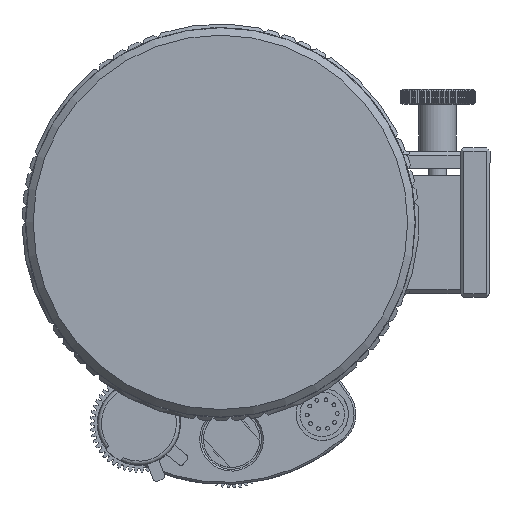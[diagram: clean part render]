
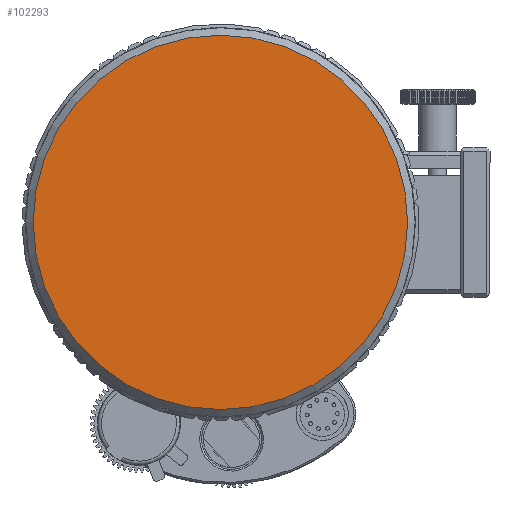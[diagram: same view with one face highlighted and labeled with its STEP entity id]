
A CAD part, left-side view. The second image highlights one B-rep face of the part: STEP entity #102293.
In plain terms, the highlighted planar face has unit normal (-1, 0, 0).
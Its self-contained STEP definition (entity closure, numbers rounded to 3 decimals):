
#102277=CARTESIAN_POINT('',(-173.682,49.75,0.));
#102278=DIRECTION('',(-1.0,0.0,0.0));
#102279=DIRECTION('',(0.0,0.0,-1.0));
#102280=AXIS2_PLACEMENT_3D('',#102277,#102278,#102279);
#102281=PLANE('',#102280);
#102282=CARTESIAN_POINT('',(-173.682,50.,0.));
#102283=VERTEX_POINT('',#102282);
#102284=CARTESIAN_POINT('',(-173.682,0.,0.));
#102285=DIRECTION('',(1.0,0.0,0.0));
#102286=DIRECTION('',(0.0,-1.0,0.0));
#102287=AXIS2_PLACEMENT_3D('',#102284,#102285,#102286);
#102288=CIRCLE('',#102287,50.);
#102289=EDGE_CURVE('',#102283,#102283,#102288,.T.);
#102290=ORIENTED_EDGE('',*,*,#102289,.F.);
#102291=EDGE_LOOP('',(#102290));
#102292=FACE_OUTER_BOUND('',#102291,.T.);
#102293=ADVANCED_FACE('',(#102292),#102281,.T.);
